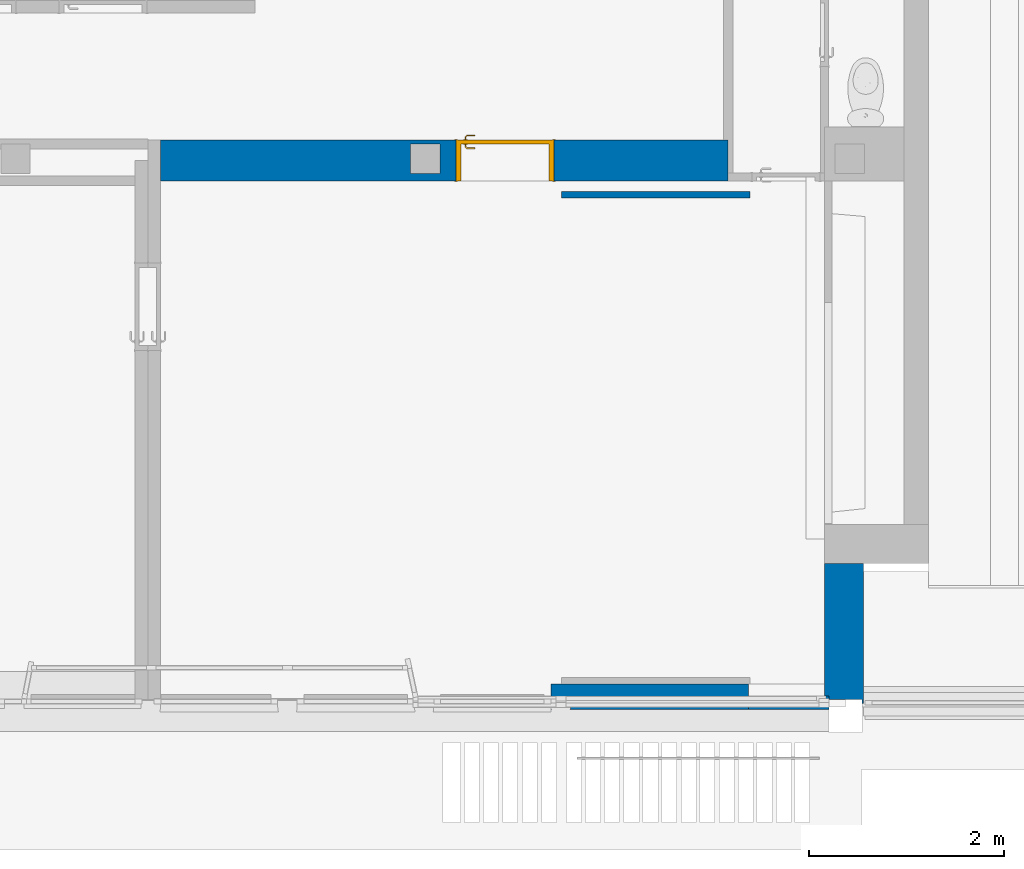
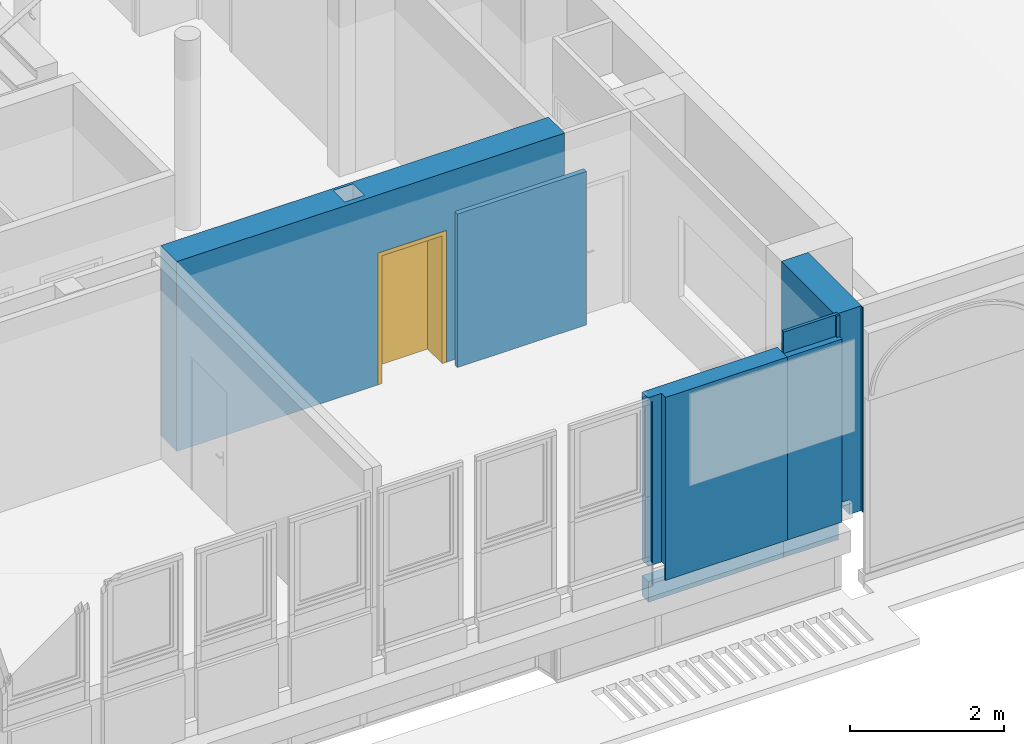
# One storey, part 77 of 97: 5 walls, 1 door, 1 opening.
"""IFC4 building model written with IfcOpenShell, lengths in metres."""

import ifcopenshell
import ifcopenshell.guid

model = None  # the IFC model being written
_history = None  # IfcOwnerHistory: only IFC2X3 demands one
_inside = {}  # id of a spatial element -> (the spatial element, [elements in it])
_under = {}  # id of a project, library or spatial element -> (it, [spatial elements below it])
_declared = {}  # id of a project -> (the project, [libraries it declares])
_typed = {}  # id of a type object -> (the type object, [elements of that type])
_made_of = {}  # id of a material, layer set ... -> (it, [elements and type objects made of it])


def new_model(schema):
    """Start an empty IFC model of exactly this schema.

    Asked for "IFC4X3", IfcOpenShell would pick the latest addendum, in which some entities
    have other attributes; the version numbers below select the first issue.
    IFC2X3 requires an IfcOwnerHistory on every rooted entity: one is made here for all.
    """
    global model, _history
    if schema == "IFC4X3":
        model = ifcopenshell.file(schema_version=(4, 3, 0, 0))
    else:
        model = ifcopenshell.file(schema=schema)
    _inside.clear()
    _under.clear()
    _declared.clear()
    _typed.clear()
    _made_of.clear()
    _history = None
    if model.schema == "IFC2X3":
        org = make("IfcOrganization", Name="unknown")
        user = make(
            "IfcPersonAndOrganization",
            ThePerson=make("IfcPerson", FamilyName="unknown"),
            TheOrganization=org,
        )
        app = make(
            "IfcApplication",
            ApplicationDeveloper=org,
            Version="unknown",
            ApplicationFullName="unknown",
            ApplicationIdentifier="unknown",
        )
        _history = make(
            "IfcOwnerHistory",
            OwningUser=user,
            OwningApplication=app,
            ChangeAction="ADDED",
            CreationDate=0,
        )
    return model


def make(cls, **values):
    """One entity of the class cls with the attributes given. An attribute that is None is left unset."""
    return model.create_entity(
        cls, **{name: value for name, value in values.items() if value is not None}
    )


def entity(cls, *values):
    """Any entity or typed value of the class cls, its attributes in the order of the schema. None: left unset."""
    e = model.create_entity(cls)
    for i, value in enumerate(values):
        if value is not None:
            e[i] = value
    return e


def rooted(cls, **values):
    """An entity with a GlobalId (a new one), such as an element, a storey or a relation."""
    return make(cls, GlobalId=ifcopenshell.guid.new(), OwnerHistory=_history, **values)


def si_unit(unit_type, name, prefix=None):
    """IfcSIUnit, for example si_unit("LENGTHUNIT", "METRE", prefix="MILLI")."""
    return make("IfcSIUnit", UnitType=unit_type, Prefix=prefix, Name=name)


def converted_unit(unit_type, name, factor, base, dimensions=None, offset=None):
    """IfcConversionBasedUnit, such as the inch: factor (a typed value) times the base unit."""
    return make(
        "IfcConversionBasedUnit"
        if offset is None
        else "IfcConversionBasedUnitWithOffset",
        ConversionOffset=offset,
        Dimensions=None
        if dimensions is None
        else entity("IfcDimensionalExponents", *dimensions),
        UnitType=unit_type,
        Name=name,
        ConversionFactor=make(
            "IfcMeasureWithUnit", ValueComponent=factor, UnitComponent=base
        ),
    )


def derived_unit(unit_type, elements):
    """IfcDerivedUnit: a product of units, each with its exponent."""
    return make(
        "IfcDerivedUnit",
        Elements=[
            make("IfcDerivedUnitElement", Unit=unit, Exponent=power)
            for unit, power in elements
        ],
        UnitType=unit_type,
    )


def assignment(units):
    """IfcUnitAssignment: the units of a project."""
    return None if units is None else make("IfcUnitAssignment", Units=units)


def point(xyz):
    """IfcCartesianPoint."""
    return None if xyz is None else make("IfcCartesianPoint", Coordinates=xyz)


def direction(xyz):
    """IfcDirection."""
    return None if xyz is None else make("IfcDirection", DirectionRatios=xyz)


def frame(location, z_axis=None, x_axis=None):
    """IfcAxis2Placement3D, a coordinate frame: its origin and axes. An axis left out is left unset."""
    return make(
        "IfcAxis2Placement3D",
        Location=point(location),
        Axis=direction(z_axis),
        RefDirection=direction(x_axis),
    )


def origin():
    """The frame at (0, 0, 0) with its axes left unset."""
    return frame((0.0, 0.0, 0.0))


def place(relative_to, where):
    """IfcLocalPlacement: puts the frame where relative to a parent placement (None: the world)."""
    return make(
        "IfcLocalPlacement", PlacementRelTo=relative_to, RelativePlacement=where
    )


def context(
    kind, dimensions, precision=None, world=None, true_north=None, identifier=None
):
    """IfcGeometricRepresentationContext, for example the 3D "Model" context."""
    return make(
        "IfcGeometricRepresentationContext",
        ContextIdentifier=identifier,
        ContextType=kind,
        CoordinateSpaceDimension=dimensions,
        Precision=precision,
        WorldCoordinateSystem=world,
        TrueNorth=true_north,
    )


def subcontext(parent, identifier, kind, view, scale=None):
    """IfcGeometricRepresentationSubContext, for example "Body" below "Model"."""
    return make(
        "IfcGeometricRepresentationSubContext",
        ContextIdentifier=identifier,
        ContextType=kind,
        ParentContext=parent,
        TargetScale=scale,
        TargetView=view,
    )


def project(units=None, contexts=None):
    """IfcProject with its units and contexts."""
    return rooted(
        "IfcProject",
        Name="project",
        RepresentationContexts=contexts,
        UnitsInContext=assignment(units),
    )


def spatial(cls, under=None, at=None, **own):
    """A site, building, storey or space (cls), placed at a placement, below another one or the project."""
    s = rooted(cls, ObjectPlacement=at, **own)
    if under is not None:
        _under.setdefault(under.id(), (under, []))[1].append(s)
    return s


def point_list(points):
    """IfcCartesianPointList2D or 3D."""
    cls = (
        "IfcCartesianPointList2D" if len(points[0]) == 2 else "IfcCartesianPointList3D"
    )
    return make(cls, CoordList=points)


def indexed_curve(points, segments=None, self_intersect=None):
    """IfcIndexedPolyCurve: lines and arcs through numbered points (the first is 1)."""
    return make(
        "IfcIndexedPolyCurve",
        Points=point_list(points),
        Segments=segments,
        SelfIntersect=self_intersect,
    )


def outline(outer, holes=None, kind="AREA"):
    """IfcArbitraryClosedProfileDef: a profile drawn as a closed curve; with holes, ...WithVoids."""
    if holes is None:
        return make("IfcArbitraryClosedProfileDef", ProfileType=kind, OuterCurve=outer)
    return make(
        "IfcArbitraryProfileDefWithVoids",
        ProfileType=kind,
        OuterCurve=outer,
        InnerCurves=holes,
    )


def extrude(swept, where, along, depth):
    """IfcExtrudedAreaSolid: the profile swept, set in the frame where, extruded along a direction by depth."""
    return make(
        "IfcExtrudedAreaSolid",
        SweptArea=swept,
        Position=where,
        ExtrudedDirection=direction(along),
        Depth=depth,
    )


def polygons(points, faces, closed=None, point_numbers=None):
    """IfcPolygonalFaceSet: a face is its outer loop, then its inner loops; points numbered from 1."""
    made = []
    for loops in faces:
        if len(loops) == 1:
            made.append(make("IfcIndexedPolygonalFace", CoordIndex=loops[0]))
        else:
            made.append(
                make(
                    "IfcIndexedPolygonalFaceWithVoids",
                    CoordIndex=loops[0],
                    InnerCoordIndices=loops[1:],
                )
            )
    return make(
        "IfcPolygonalFaceSet",
        Coordinates=point_list(points),
        Closed=closed,
        Faces=made,
        PnIndex=point_numbers,
    )


def shape(context_of_items, identifier, shape_type, items):
    """IfcShapeRepresentation: the items that make up one representation, for example the "Body"."""
    return make(
        "IfcShapeRepresentation",
        ContextOfItems=context_of_items,
        RepresentationIdentifier=identifier,
        RepresentationType=shape_type,
        Items=items,
    )


def source(mapping_origin, context_of_items, identifier, shape_type, items):
    """IfcRepresentationMap: a shape defined once, which mapped items show again and again."""
    return make(
        "IfcRepresentationMap",
        MappingOrigin=mapping_origin,
        MappedRepresentation=shape(context_of_items, identifier, shape_type, items),
    )


def transform(
    local_origin,
    x_axis=None,
    y_axis=None,
    z_axis=None,
    scale=None,
    scale2=None,
    scale3=None,
    uniform=True,
):
    """IfcCartesianTransformationOperator3D, or its non-uniform kind. x_axis, y_axis, z_axis: its Axis1, 2, 3."""
    if uniform:
        return make(
            "IfcCartesianTransformationOperator3D",
            Axis1=direction(x_axis),
            Axis2=direction(y_axis),
            LocalOrigin=point(local_origin),
            Scale=scale,
            Axis3=direction(z_axis),
        )
    return make(
        "IfcCartesianTransformationOperator3DnonUniform",
        Axis1=direction(x_axis),
        Axis2=direction(y_axis),
        LocalOrigin=point(local_origin),
        Scale=scale,
        Axis3=direction(z_axis),
        Scale2=scale2,
        Scale3=scale3,
    )


def mapped(mapping_source, mapping_target):
    """IfcMappedItem: shows the shape of a source again, moved by a transform."""
    return make(
        "IfcMappedItem", MappingSource=mapping_source, MappingTarget=mapping_target
    )


def material(Name=None, Category=None):
    """IfcMaterial."""
    return make("IfcMaterial", Name=Name, Category=Category)


def material_list(materials):
    """IfcMaterialList."""
    return make("IfcMaterialList", Materials=materials)


def layer(
    of_material, thickness, ventilated=None, Name=None, Category=None, Priority=None
):
    """IfcMaterialLayer: one layer of a wall or slab, of a material (None: an air gap)."""
    return make(
        "IfcMaterialLayer",
        Material=of_material,
        LayerThickness=thickness,
        IsVentilated=ventilated,
        Name=Name,
        Category=Category,
        Priority=Priority,
    )


def layer_set(layers, Name=None):
    """IfcMaterialLayerSet."""
    return make("IfcMaterialLayerSet", MaterialLayers=layers, LayerSetName=Name)


def constituent(of_material, Name=None, Category=None, fraction=None):
    """IfcMaterialConstituent: one of the materials an element consists of."""
    return make(
        "IfcMaterialConstituent",
        Name=Name,
        Material=of_material,
        Fraction=fraction,
        Category=Category,
    )


def constituent_set(constituents=None, Name=None):
    """IfcMaterialConstituentSet."""
    return make(
        "IfcMaterialConstituentSet", Name=Name, MaterialConstituents=constituents
    )


def made_of(thing, what):
    """Note that an element or type object is made of a material, layer set ...; save() writes the relation."""
    if what is not None:
        _made_of.setdefault(what.id(), (what, []))[1].append(thing)
    return thing


def type_object(cls, material=None, **own):
    """A type object (cls), such as IfcWallType, which elements share."""
    return made_of(rooted(cls, **own), material)


def type_shapes(of_type, sources):
    """Give a type object the sources (RepresentationMaps) that its elements show as mapped items."""
    of_type.RepresentationMaps = sources


def element(
    cls,
    number,
    at=None,
    inside=None,
    cuts=None,
    type_object=None,
    material=None,
    context=None,
    identifier="Body",
    shape_type=None,
    held_by="IfcProductDefinitionShape",
    body=None,
    shapes=None,
    **own,
):
    """One element of the class cls, such as IfcWall. Its Tag is "e" and its number.

    at: its placement. inside: the storey or other place that contains it. cuts: it is an
    opening in that element (IfcRelVoidsElement). A single representation is given by context,
    identifier, shape_type and body (its items); several are given by shapes. held_by: the class
    of the entity that holds the representations. save() writes the other relations.
    """
    e = rooted(cls, Tag="e%d" % number, ObjectPlacement=at, **own)
    if body is not None:
        shapes = [shape(context, identifier, shape_type, body)]
    if shapes is not None:
        e.Representation = make(held_by, Representations=shapes)
    if inside is not None:
        _inside.setdefault(inside.id(), (inside, []))[1].append(e)
    if cuts is not None:
        rooted(
            "IfcRelVoidsElement", RelatingBuildingElement=cuts, RelatedOpeningElement=e
        )
    if type_object is not None:
        _typed.setdefault(type_object.id(), (type_object, []))[1].append(e)
    return made_of(e, material)


def fill(opening, filler):
    """IfcRelFillsElement: the door or window that sits in an opening."""
    return rooted(
        "IfcRelFillsElement",
        RelatingOpeningElement=opening,
        RelatedBuildingElement=filler,
    )


def aggregate(whole, parts):
    """IfcRelAggregates: a whole, such as a stair, and the parts it consists of."""
    return rooted("IfcRelAggregates", RelatingObject=whole, RelatedObjects=parts)


def save(model, path):
    """Write the relations noted so far, then the file.

    IfcRelAggregates (storeys below a building ...), IfcRelContainedInSpatialStructure (elements
    in a storey), IfcRelDefinesByType, IfcRelAssociatesMaterial and IfcRelDeclares: one each for
    every whole, place, type object, material and project.
    """
    for whole, parts in _under.values():
        aggregate(whole, parts)
    for where, things in _inside.values():
        rooted(
            "IfcRelContainedInSpatialStructure",
            RelatedElements=things,
            RelatingStructure=where,
        )
    for kind, things in _typed.values():
        rooted("IfcRelDefinesByType", RelatedObjects=things, RelatingType=kind)
    for what, things in _made_of.values():
        rooted("IfcRelAssociatesMaterial", RelatedObjects=things, RelatingMaterial=what)
    for by, libraries in _declared.values():
        rooted("IfcRelDeclares", RelatingContext=by, RelatedDefinitions=libraries)
    model.write(path)


model = new_model("IFC4")

# Units and contexts
model_context = context("Model", 3, precision=1e-05, world=origin(), true_north=direction((6.12303176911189e-17, 1.0)))
body_context = subcontext(model_context, "Body", "Model", "MODEL_VIEW")
ifc_project = project(units=[si_unit("LENGTHUNIT", "METRE"), si_unit("AREAUNIT", "SQUARE_METRE"), si_unit("VOLUMEUNIT", "CUBIC_METRE"), converted_unit("PLANEANGLEUNIT", "DEGREE", entity("IfcRatioMeasure", 0.0174532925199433), si_unit("PLANEANGLEUNIT", "RADIAN"), dimensions=[0, 0, 0, 0, 0, 0, 0]), si_unit("MASSUNIT", "GRAM", prefix="KILO"), derived_unit("MASSDENSITYUNIT", [(si_unit("MASSUNIT", "GRAM", prefix="KILO"), 1), (si_unit("LENGTHUNIT", "METRE"), -3)]), derived_unit("MOMENTOFINERTIAUNIT", [(si_unit("LENGTHUNIT", "METRE"), 4)]), si_unit("TIMEUNIT", "SECOND"), si_unit("FREQUENCYUNIT", "HERTZ"), si_unit("THERMODYNAMICTEMPERATUREUNIT", "DEGREE_CELSIUS"), derived_unit("THERMALTRANSMITTANCEUNIT", [(si_unit("MASSUNIT", "GRAM", prefix="KILO"), 1), (si_unit("THERMODYNAMICTEMPERATUREUNIT", "KELVIN"), -1), (si_unit("TIMEUNIT", "SECOND"), -3)]), derived_unit("VOLUMETRICFLOWRATEUNIT", [(si_unit("LENGTHUNIT", "METRE"), 3), (si_unit("TIMEUNIT", "SECOND"), -1)]), si_unit("ELECTRICCURRENTUNIT", "AMPERE"), si_unit("ELECTRICVOLTAGEUNIT", "VOLT"), si_unit("POWERUNIT", "WATT"), si_unit("FORCEUNIT", "NEWTON", prefix="KILO"), si_unit("ILLUMINANCEUNIT", "LUX"), si_unit("LUMINOUSFLUXUNIT", "LUMEN"), si_unit("LUMINOUSINTENSITYUNIT", "CANDELA"), derived_unit("USERDEFINED", [(si_unit("MASSUNIT", "GRAM", prefix="KILO"), -1), (si_unit("LENGTHUNIT", "METRE"), -2), (si_unit("TIMEUNIT", "SECOND"), 3), (si_unit("LUMINOUSFLUXUNIT", "LUMEN"), 1)]), derived_unit("LINEARVELOCITYUNIT", [(si_unit("LENGTHUNIT", "METRE"), 1), (si_unit("TIMEUNIT", "SECOND"), -1)]), si_unit("PRESSUREUNIT", "PASCAL"), derived_unit("USERDEFINED", [(si_unit("LENGTHUNIT", "METRE"), -2), (si_unit("MASSUNIT", "GRAM", prefix="KILO"), 1), (si_unit("TIMEUNIT", "SECOND"), -2)]), derived_unit("LINEARFORCEUNIT", [(si_unit("MASSUNIT", "GRAM", prefix="KILO"), 1), (si_unit("LENGTHUNIT", "METRE"), 1), (si_unit("TIMEUNIT", "SECOND"), -2), (si_unit("LENGTHUNIT", "METRE"), -1)]), derived_unit("PLANARFORCEUNIT", [(si_unit("MASSUNIT", "GRAM", prefix="KILO"), 1), (si_unit("LENGTHUNIT", "METRE"), 1), (si_unit("TIMEUNIT", "SECOND"), -2), (si_unit("LENGTHUNIT", "METRE"), -2)])], contexts=[model_context])

# Site, building, storey
site_placement = place(None, origin())
site = spatial("IfcSite", under=ifc_project, at=site_placement, Name="Default", CompositionType="ELEMENT")
building_placement = place(site_placement, origin())
building = spatial("IfcBuilding", under=site, at=building_placement, Name="HOTEL CONSULAIRE BOULOGNE SUR MER", CompositionType="ELEMENT")
storey_placement = place(building_placement, frame((0.0, 0.0, 3.62152697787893)))
storey = spatial("IfcBuildingStorey", under=building, at=storey_placement, Name="Niveau 1", CompositionType="ELEMENT", Elevation=3.62152697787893)

# Walls
ifc_material_1 = material(Name="Mur par défaut", Category="Divers")
ifc_layer_1 = layer(ifc_material_1, 0.26, Name="Mur par défaut", Category="Divers")
ifc_layer_set_1 = layer_set([ifc_layer_1], Name="Mur de base:Générique - Ext.260")
wall_type_1 = type_object("IfcWallType", Name="Mur de base:Générique - Ext.260", PredefinedType="NOTDEFINED", material=ifc_layer_set_1)
wall_1_placement = place(storey_placement, frame((8.45858002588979, -29.5283514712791, -0.56300000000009)))
element("IfcWall", 1, at=wall_1_placement, inside=storey, type_object=wall_type_1, material=ifc_layer_set_1, Name="Mur de base:Générique - Ext.260", ObjectType="Mur de base:Générique - Ext.260", PredefinedType="NOTDEFINED", context=body_context, shape_type="Tessellation", body=[
    polygons([(0.00349265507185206, -0.130000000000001, 0.332600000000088), (9.27208915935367e-17, -0.130000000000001, 0.332600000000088), (2.20227283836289e-15, -0.106715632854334, 0.332600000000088), (9.27208915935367e-17, -0.130000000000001, 3.23347302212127), (0.00349265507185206, -0.130000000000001, 3.23347302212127), (3.65385797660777e-17, -0.106715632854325, 3.23347302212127), (3.65385797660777e-17, -0.106715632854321, 0.56300000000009)], [[[3, 1, 2]], [[4, 2, 1, 5]], [[5, 6, 4]], [[2, 4, 6, 7, 3]], [[7, 6, 5, 1, 3]]], closed=True),
    polygons([(5.48240024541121e-16, 0.130000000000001, 0.0), (-1.82942455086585e-16, -0.0157532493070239, 0.0), (-1.34775680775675e-16, -0.0357156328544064, 0.0), (-1.34775680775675e-16, -0.0357156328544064, 0.32800000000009), (-1.82942455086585e-16, -0.0157532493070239, 0.32800000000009), (5.48240024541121e-16, 0.130000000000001, 0.32800000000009), (2.02605827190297, 0.130000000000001, 0.0), (2.02605827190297, 0.130000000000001, 0.32800000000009), (2.02605827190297, -0.0357156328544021, 0.0), (2.02605827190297, 0.0100000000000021, 0.0), (2.02605827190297, 0.0100000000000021, 0.32800000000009), (2.02605827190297, -0.0357156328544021, 0.32800000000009)], [[[2, 3, 4, 5, 6, 1]], [[8, 7, 1, 6]], [[11, 12, 9, 10, 7, 8]], [[10, 9, 3, 2, 1, 7]], [[3, 9, 12, 4]], [[11, 8, 6, 5, 4, 12]]], closed=True),
    polygons([(2.02605827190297, -0.130000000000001, 0.332600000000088), (2.02605827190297, -0.130000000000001, 3.23347302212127), (0.19650734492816, -0.130000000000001, 3.23347302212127), (0.196507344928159, -0.130000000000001, 0.332600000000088), (5.48240024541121e-16, 0.130000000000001, 3.23347302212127), (2.02605827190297, 0.130000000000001, 3.23347302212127), (2.02605827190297, 0.130000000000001, 0.56300000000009), (5.48240024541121e-16, 0.130000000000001, 0.56300000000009), (2.02605827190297, -0.106753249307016, 0.332600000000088), (2.02605827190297, -0.106753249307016, 0.56300000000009), (2.02605827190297, 0.0100000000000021, 0.56300000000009), (-1.58904449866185e-16, -0.0257156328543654, 3.23347302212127), (0.200000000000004, -0.0257156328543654, 3.23347302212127), (0.200000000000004, -0.106715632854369, 3.23347302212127), (-1.82942455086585e-16, -0.0157532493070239, 0.56300000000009), (-1.58904449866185e-16, -0.0257156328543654, 0.56300000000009), (0.199994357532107, -0.106753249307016, 0.332600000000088), (0.199994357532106, -0.106753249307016, 0.56300000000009), (0.200000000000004, -0.0257156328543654, 0.56300000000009)], [[[3, 4, 1, 2]], [[19, 13, 12, 16]], [[6, 7, 8, 5]], [[18, 10, 9, 17]], [[10, 11, 7, 6, 2, 1, 9]], [[2, 6, 5, 12, 13, 14, 3]], [[16, 12, 5, 8, 15]], [[19, 14, 13]], [[17, 9, 1, 4]], [[18, 19, 16, 15, 8, 7, 11, 10]], [[18, 17, 4, 3, 14]], [[14, 19, 18]]], closed=True),
])
ifc_layer_2 = layer(ifc_material_1, 0.14, Name="Mur par défaut", Category="Divers")
ifc_layer_set_2 = layer_set([ifc_layer_2], Name="Mur de base:Générique - Ext.140")
wall_type_2 = type_object("IfcWallType", Name="Mur de base:Générique - Ext.140", PredefinedType="NOTDEFINED", material=ifc_layer_set_2)
wall_2_placement = place(storey_placement, frame((10.4846382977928, -29.5883514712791, -0.570400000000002)))
element("IfcWall", 2, at=wall_2_placement, inside=storey, type_object=wall_type_2, material=ifc_layer_set_2, Name="Mur de base:Générique - Ext.140", ObjectType="Mur de base:Générique - Ext.140", PredefinedType="NOTDEFINED", context=body_context, shape_type="Tessellation", body=[
    polygons([(-2.45081875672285e-16, 0.0700000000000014, 3.5806145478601), (0.821999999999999, 0.0699999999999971, 3.5806145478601), (0.821999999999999, 0.0699999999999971, 0.570400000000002), (-2.45081875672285e-16, 0.0700000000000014, 0.570400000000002), (0.821999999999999, 0.0242843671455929, 3.5806145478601), (0.821999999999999, 0.0242843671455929, 3.2406145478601), (0.822, -0.0700000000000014, 3.2406145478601), (0.822, -0.0700000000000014, 0.34), (0.821999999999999, -0.0467532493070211, 0.34), (0.821999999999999, -0.0467532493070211, 0.570400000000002), (9.27208915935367e-17, -0.0699999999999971, 0.34), (9.27208915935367e-17, -0.0699999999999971, 3.2406145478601), (-1.3477568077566e-16, 0.0242843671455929, 3.5806145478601), (3.66293436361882e-17, -0.0467532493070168, 0.570400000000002), (3.66293436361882e-17, -0.0467532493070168, 0.34), (-1.3477568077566e-16, 0.0242843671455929, 3.24061454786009)], [[[2, 3, 4, 1]], [[10, 9, 15, 14]], [[8, 9, 10, 3, 2, 5, 6, 7]], [[12, 11, 8, 7]], [[16, 6, 5, 13]], [[13, 5, 2, 1]], [[12, 7, 6, 16]], [[12, 16, 13, 1, 4, 14, 15, 11]], [[15, 9, 8, 11]], [[3, 10, 14, 4]]], closed=True),
    polygons([(-2.45081875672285e-16, 0.0700000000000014, 0.00739999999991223), (-1.34775680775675e-16, 0.0242843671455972, 0.00739999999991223), (-1.34775680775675e-16, 0.0242843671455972, 0.335400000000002), (-2.45081875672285e-16, 0.0700000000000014, 0.335400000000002), (0.821999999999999, 0.0699999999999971, 0.0), (0.792362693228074, 0.0699999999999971, 0.0), (0.792362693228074, 0.0699999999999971, 0.00739999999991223), (0.821999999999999, 0.0699999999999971, 0.335400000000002), (0.821999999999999, 0.0242843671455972, 0.0), (0.792362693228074, 0.0242843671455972, 0.0), (0.821999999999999, 0.0242843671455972, 0.335400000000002), (0.792362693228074, 0.0242843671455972, 0.00739999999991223)], [[[2, 3, 4, 1]], [[12, 7, 6, 10]], [[7, 1, 4, 8, 5, 6]], [[9, 10, 6, 5]], [[2, 1, 7, 12]], [[11, 9, 5, 8]], [[12, 10, 9, 11, 3, 2]], [[11, 8, 4, 3]]], closed=True),
])

# Wall, opening, door
ifc_layer_3 = layer(ifc_material_1, 0.42, Name="Mur par défaut", Category="Divers")
ifc_layer_set_3 = layer_set([ifc_layer_3], Name="Mur de base:Générique - Int.420")
wall_type_3 = type_object("IfcWallType", Name="Mur de base:Générique - Int.420", PredefinedType="NOTDEFINED", material=ifc_layer_set_3)
wall_3_placement = place(storey_placement, frame((4.4585800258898, -24.0327611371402, 0.0)))
wall_3 = element("IfcWall", 3, at=wall_3_placement, inside=storey, type_object=wall_type_3, material=ifc_layer_set_3, Name="Mur de base:Générique - Int.420", ObjectType="Mur de base:Générique - Int.420", PredefinedType="NOTDEFINED", context=body_context, shape_type="Tessellation", body=[
    polygons([(3.02889785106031, -0.21, 0.0), (0.0, -0.21, 0.0), (1.08286712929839e-15, 0.21, 0.0), (3.02889785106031, 0.21, 0.0), (2.86259674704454, -0.133148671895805, 0.0), (2.86259674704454, 0.166851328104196, 0.0), (2.56259674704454, 0.166851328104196, 0.0), (2.56259674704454, -0.133148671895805, 0.0), (5.8148978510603, -0.21, 3.01021454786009), (0.0, -0.21, 3.01021454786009), (3.02889785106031, -0.21, 2.075), (4.02889785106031, -0.21, 2.075), (4.02889785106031, -0.21, 0.0), (5.8148978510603, -0.21, 0.0), (5.41433564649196e-16, 0.21, 3.01021454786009), (5.7648978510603, 0.21, 3.01021454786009), (5.8148978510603, 0.21, 3.01021454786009), (5.8148978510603, 0.21, 0.0), (5.7648978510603, 0.21, 0.0), (4.02889785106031, 0.21, 0.0), (4.02889785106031, 0.21, 2.075), (3.02889785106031, 0.21, 2.075), (5.8148978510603, -0.130000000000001, 3.01021454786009), (5.8148978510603, -0.130000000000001, 0.0), (2.86259674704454, 0.166851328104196, 3.01021454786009), (2.86259674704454, -0.133148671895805, 3.01021454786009), (2.56259674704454, -0.133148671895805, 3.01021454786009), (2.56259674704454, 0.166851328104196, 3.01021454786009)], [[[1, 2, 3, 4], [8, 5, 6, 7]], [[22, 21, 12, 11]], [[24, 14, 13, 20, 19, 18]], [[2, 1, 11, 12, 13, 14, 9, 10]], [[6, 25, 28, 7]], [[18, 19, 20, 21, 22, 4, 3, 15, 16, 17]], [[8, 27, 26, 5]], [[23, 9, 14, 24, 18, 17]], [[4, 22, 11, 1]], [[7, 28, 27, 8]], [[16, 15, 10, 9, 23, 17], [26, 27, 28, 25]], [[3, 2, 10, 15]], [[21, 20, 13, 12]], [[5, 26, 25, 6]]], closed=True),
])
opening_placement = place(wall_3_placement, frame((3.02889785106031, -0.21, 0.0)))
opening = element("IfcOpeningElement", 4, at=opening_placement, cuts=wall_3, Name="Int. Simple:PP0.93x2.04:1", ObjectType="Opening", PredefinedType="OPENING", context=body_context, shape_type="SweptSolid", body=[
    extrude(outline(indexed_curve([(0.0, 1.0), (0.0, 0.0), (2.075, 0.0), (2.075, 1.0), (0.0, 1.0)], self_intersect=False)), frame((0.0, 0.0, 0.0), z_axis=(0.0, 1.0, 0.0), x_axis=(0.0, 0.0, 1.0)), (0.0, 0.0, 1.0), 0.42),
])
ifc_material_2 = material(Name="Finition Peinture - Blanc satiné", Category="Peinture")
ifc_constituent_1 = constituent(ifc_material_2, Name="Finition Peinture - Blanc satiné", Category="Matériaux")
ifc_material_3 = material(Name="Bois - Panneau de porte", Category="Bois")
ifc_constituent_2 = constituent(ifc_material_3, Name="Bois - Panneau de porte", Category="Matériaux")
ifc_material_4 = material(Name="Bois - Cadre de porte", Category="Bois")
ifc_constituent_3 = constituent(ifc_material_4, Name="Bois - Cadre de porte", Category="Matériaux")
ifc_constituent_set = constituent_set(constituents=[ifc_constituent_1, ifc_constituent_2, ifc_constituent_3], Name="MaterialConstituentSet")
ifc_material_list = material_list([ifc_material_3, ifc_material_4, ifc_material_2, ifc_material_4])
door_type = type_object("IfcDoorType", Name="Int. Simple:PP0.93x2.04", OperationType="NOTDEFINED", PredefinedType="DOOR", material=ifc_material_list)
shared_shape = source(origin(), body_context, "Body", "Tessellation", [
    polygons([(0.995000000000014, -0.0050000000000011, 0.870000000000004), (0.995000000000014, -0.0050000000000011, 1.08), (0.985352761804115, -0.0050000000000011, 1.08399601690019), (0.975000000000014, -0.0050000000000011, 1.08535898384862), (0.964647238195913, -0.00500000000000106, 1.08399601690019), (0.955000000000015, -0.00500000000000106, 1.08), (0.955000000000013, -0.00500000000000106, 0.870000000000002), (0.964647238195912, -0.00500000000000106, 0.866003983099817), (0.975000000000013, -0.0050000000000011, 0.86464101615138), (0.985352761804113, -0.0050000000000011, 0.866003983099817), (0.995000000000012, -1.11670672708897e-15, 0.870000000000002), (0.985352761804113, -1.11670672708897e-15, 0.866003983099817), (0.975000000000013, -1.11670672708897e-15, 0.86464101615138), (0.964647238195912, -1.08286712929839e-15, 0.866003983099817), (0.955000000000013, -1.08286712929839e-15, 0.870000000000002), (0.955000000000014, -1.08286712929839e-15, 1.08), (0.964647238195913, -1.08286712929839e-15, 1.08399601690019), (0.975000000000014, -1.11670672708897e-15, 1.08535898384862), (0.985352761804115, -1.11670672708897e-15, 1.08399601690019), (0.995000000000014, -1.11670672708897e-15, 1.08)], [[[1, 2, 3, 4, 5, 6, 7, 8, 9, 10]], [[20, 11, 12, 13, 14, 15, 16, 17, 18, 19]], [[10, 12, 11, 1]], [[9, 13, 12, 10]], [[8, 14, 13, 9]], [[8, 7, 15, 14]], [[15, 7, 6, 16]], [[5, 17, 16, 6]], [[4, 18, 17, 5]], [[3, 19, 18, 4]], [[3, 2, 20, 19]], [[11, 20, 2, 1]]], closed=True),
    polygons([(0.955000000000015, 0.0399999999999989, 1.08), (0.955000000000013, 0.0399999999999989, 0.870000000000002), (0.964647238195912, 0.0399999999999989, 0.866003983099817), (0.975000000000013, 0.0399999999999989, 0.86464101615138), (0.985352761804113, 0.0399999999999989, 0.866003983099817), (0.995000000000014, 0.0399999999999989, 0.870000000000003), (0.995000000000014, 0.0399999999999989, 1.08), (0.985352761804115, 0.0399999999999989, 1.08399601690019), (0.975000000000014, 0.0399999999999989, 1.08535898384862), (0.964647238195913, 0.0399999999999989, 1.08399601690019), (0.955000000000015, 0.0449999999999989, 1.08), (0.964647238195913, 0.0449999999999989, 1.08399601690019), (0.975000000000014, 0.0449999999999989, 1.08535898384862), (0.985352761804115, 0.0449999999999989, 1.08399601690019), (0.995000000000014, 0.0449999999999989, 1.08), (0.995000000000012, 0.0449999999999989, 0.870000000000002), (0.985352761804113, 0.0449999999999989, 0.866003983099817), (0.975000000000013, 0.0449999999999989, 0.86464101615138), (0.964647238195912, 0.0449999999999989, 0.866003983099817), (0.955000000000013, 0.0449999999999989, 0.870000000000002)], [[[6, 7, 8, 9, 10, 1, 2, 3, 4, 5]], [[13, 14, 15, 16, 17, 18, 19, 20, 11, 12]], [[10, 12, 11, 1]], [[9, 13, 12, 10]], [[8, 14, 13, 9]], [[8, 7, 15, 14]], [[16, 15, 7, 6]], [[5, 17, 16, 6]], [[4, 18, 17, 5]], [[3, 19, 18, 4]], [[3, 2, 20, 19]], [[20, 2, 1, 11]]], closed=True),
    polygons([(0.981000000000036, -0.00500000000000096, 1.00699999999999), (0.981000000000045, -0.00500000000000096, 0.992999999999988), (0.977025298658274, -0.00500000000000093, 0.99221955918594), (0.972974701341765, -0.00500000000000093, 0.992219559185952), (0.968999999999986, -0.00500000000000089, 0.993000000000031), (0.968999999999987, -0.00500000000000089, 1.007), (0.972974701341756, -0.00500000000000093, 1.00778044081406), (0.977025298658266, -0.00500000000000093, 1.00778044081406), (0.968999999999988, -0.0276803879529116, 1.007), (0.972974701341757, -0.029326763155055, 1.00778044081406), (0.977025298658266, -0.0310045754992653, 1.00778044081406), (0.981000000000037, -0.0326509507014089, 1.007), (0.968999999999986, -0.0276803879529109, 0.993000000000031), (0.981000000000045, -0.0326509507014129, 0.992999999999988), (0.977025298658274, -0.0310045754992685, 0.99221955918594), (0.972974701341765, -0.0293267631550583, 0.992219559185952), (0.957652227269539, -0.0390281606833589, 1.007), (0.959298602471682, -0.0430028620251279, 1.00778044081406), (0.960976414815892, -0.0470534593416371, 1.00778044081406), (0.962622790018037, -0.0510281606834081, 1.007), (0.957652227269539, -0.0390281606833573, 0.993000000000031), (0.96262279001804, -0.0510281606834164, 0.992999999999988), (0.960976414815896, -0.047053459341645, 0.99221955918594), (0.959298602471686, -0.0430028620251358, 0.992219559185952), (0.874981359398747, -0.0510281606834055, 1.007), (0.874981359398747, -0.0470534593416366, 1.00778044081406), (0.874981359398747, -0.0430028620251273, 1.00778044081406), (0.874981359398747, -0.0390281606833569, 1.00699999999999), (0.874981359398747, -0.0390281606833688, 0.993000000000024), (0.874981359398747, -0.0430028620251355, 0.992219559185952), (0.874981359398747, -0.0470534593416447, 0.99221955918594), (0.874981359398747, -0.0510281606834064, 0.992999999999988), (0.922692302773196, -0.051028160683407, 1.007), (0.917139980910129, -0.045028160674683, 1.0078786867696), (0.916316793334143, -0.039028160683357, 1.007), (0.922692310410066, -0.0510281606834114, 0.992999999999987), (0.917139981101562, -0.0450281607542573, 0.992121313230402), (0.916316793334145, -0.039028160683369, 0.993000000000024)], [[[7, 8, 1, 2, 3, 4, 5, 6]], [[17, 21, 38, 29, 28, 35]], [[1, 8, 11, 12]], [[8, 7, 10, 18, 19, 11]], [[7, 6, 9, 10]], [[13, 9, 6, 5]], [[25, 26, 27, 28, 29, 30, 31, 32]], [[4, 16, 13, 5]], [[4, 3, 15, 23, 24, 16]], [[2, 14, 15, 3]], [[12, 14, 2, 1]], [[12, 11, 19, 20]], [[10, 9, 17, 18]], [[21, 17, 9, 13]], [[13, 16, 24, 21]], [[15, 14, 22, 23]], [[20, 22, 14, 12]], [[34, 26, 33]], [[33, 26, 25]], [[33, 20, 19]], [[18, 35, 34]], [[35, 18, 17]], [[28, 27, 35]], [[34, 27, 26]], [[34, 35, 27]], [[34, 33, 19]], [[18, 34, 19]], [[37, 30, 38]], [[31, 37, 36]], [[24, 38, 21]], [[30, 29, 38]], [[31, 36, 32]], [[36, 23, 22]], [[37, 23, 36]], [[37, 24, 23]], [[37, 38, 24]], [[30, 37, 31]], [[22, 20, 33, 25, 32, 36]]], closed=True),
    polygons([(0.968999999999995, 0.0449999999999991, 0.993000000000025), (0.972974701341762, 0.044999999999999, 0.992219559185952), (0.977025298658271, 0.044999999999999, 0.99221955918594), (0.981000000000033, 0.044999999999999, 0.992999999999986), (0.981000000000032, 0.044999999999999, 1.007), (0.977025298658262, 0.044999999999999, 1.00778044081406), (0.972974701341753, 0.044999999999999, 1.00778044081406), (0.968999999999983, 0.0449999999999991, 1.007), (0.968999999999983, 0.067485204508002, 1.007), (0.968999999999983, 0.067485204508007, 0.993000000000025), (0.981000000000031, 0.0724557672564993, 1.007), (0.977025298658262, 0.0708093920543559, 1.00778044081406), (0.972974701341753, 0.0691315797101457, 1.00778044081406), (0.981000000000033, 0.0724557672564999, 0.992999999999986), (0.972974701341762, 0.0691315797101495, 0.992219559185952), (0.977025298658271, 0.0708093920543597, 0.99221955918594), (0.957514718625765, 0.0789704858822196, 1.007), (0.957514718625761, 0.0789704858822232, 0.993000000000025), (0.962485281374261, 0.0909704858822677, 1.007), (0.960838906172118, 0.0869957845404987, 1.00778044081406), (0.959161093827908, 0.0829451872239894, 1.00778044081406), (0.962485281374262, 0.0909704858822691, 0.992999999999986), (0.959161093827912, 0.0829451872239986, 0.992219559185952), (0.960838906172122, 0.0869957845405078, 0.99221955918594), (0.874954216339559, 0.0789704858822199, 0.993000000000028), (0.874954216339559, 0.078970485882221, 1.007), (0.874954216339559, 0.08294518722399, 1.00778044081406), (0.874954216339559, 0.0869957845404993, 1.00778044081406), (0.874954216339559, 0.0909704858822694, 1.007), (0.874954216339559, 0.0909704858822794, 0.992999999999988), (0.874954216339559, 0.086995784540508, 0.99221955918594), (0.874954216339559, 0.0829451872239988, 0.992219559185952), (0.922554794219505, 0.0909704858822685, 1.007), (0.917057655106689, 0.0849704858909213, 1.0078786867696), (0.916234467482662, 0.0789704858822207, 1.007), (0.922554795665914, 0.0909704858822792, 0.992999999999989), (0.917057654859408, 0.0849704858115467, 0.992121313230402), (0.916234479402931, 0.0789704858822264, 0.993000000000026)], [[[2, 3, 4, 5, 6, 7, 8, 1]], [[18, 17, 35, 26, 25, 38]], [[9, 10, 1, 8]], [[27, 28, 29, 30, 31, 32, 25, 26]], [[7, 13, 9, 8]], [[7, 6, 12, 20, 21, 13]], [[5, 11, 12, 6]], [[11, 5, 4, 14]], [[4, 3, 16, 14]], [[3, 2, 15, 23, 24, 16]], [[2, 1, 10, 15]], [[17, 18, 10, 9]], [[9, 13, 21, 17]], [[11, 19, 20, 12]], [[22, 19, 11, 14]], [[14, 16, 24, 22]], [[15, 10, 18, 23]], [[34, 27, 35]], [[28, 34, 33]], [[21, 35, 17]], [[27, 26, 35]], [[28, 33, 29]], [[33, 20, 19]], [[34, 20, 33]], [[34, 21, 20]], [[34, 35, 21]], [[27, 34, 28]], [[19, 22, 36, 30, 29, 33]], [[37, 31, 36]], [[36, 31, 30]], [[36, 22, 24]], [[23, 38, 37]], [[38, 23, 18]], [[25, 32, 38]], [[37, 32, 31]], [[37, 38, 32]], [[37, 36, 24]], [[23, 37, 24]]], closed=True),
    polygons([(1.03500000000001, 0.04, 2.04), (1.03500000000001, 0.04, 0.0), (0.105000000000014, 0.04, 0.0), (0.105000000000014, 0.04, 2.04), (1.03500000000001, 0.0, 2.04), (0.105000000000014, 0.0, 2.04), (0.105000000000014, 0.0, 0.0), (1.03500000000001, 0.0, 0.0)], [[[3, 4, 1, 2]], [[8, 5, 6, 7]], [[5, 1, 4, 6]], [[6, 4, 3, 7]], [[7, 3, 2, 8]], [[8, 2, 1, 5]]], closed=True),
    polygons([(1.07000000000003, -6.76791955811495e-17, 0.0), (1.03500000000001, -6.76791955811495e-17, 0.0), (1.03500000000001, 0.040000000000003, 0.0), (1.02000000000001, 0.040000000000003, 0.0), (1.02000000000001, 0.420000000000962, 0.0), (1.07000000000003, 0.420000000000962, 0.0), (1.07000000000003, 0.420000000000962, 2.07500000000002), (1.07000000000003, -6.76791955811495e-17, 2.07500000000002), (1.02000000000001, 0.420000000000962, 2.025), (0.120000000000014, 0.420000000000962, 2.025), (0.120000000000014, 0.420000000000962, 3.59657255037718e-24), (0.0699999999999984, 0.420000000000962, 3.88816484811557e-25), (0.0699999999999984, 0.420000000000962, 2.07500000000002), (1.02000000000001, 0.040000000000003, 2.025), (1.03500000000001, 0.040000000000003, 2.04), (0.105000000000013, 0.040000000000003, 2.04), (0.105000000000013, 0.040000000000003, -4.78103047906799e-25), (0.120000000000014, 0.040000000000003, 2.24110802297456e-24), (0.120000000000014, 0.040000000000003, 2.025), (1.03500000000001, -6.76791955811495e-17, 2.04), (0.0699999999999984, -6.76791955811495e-17, 2.07500000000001), (0.0699999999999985, -6.76791955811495e-17, -3.95490158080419e-25), (0.105000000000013, -6.76791955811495e-17, -2.84752548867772e-24), (0.105000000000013, -6.76791955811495e-17, 2.04)], [[[5, 6, 1, 2, 3, 4]], [[17, 23, 22, 12, 11, 18]], [[19, 10, 9, 14]], [[24, 16, 15, 20]], [[7, 8, 1, 6]], [[11, 10, 19, 18]], [[17, 16, 24, 23]], [[9, 10, 11, 12, 13, 7, 6, 5]], [[9, 5, 4, 14]], [[20, 15, 3, 2]], [[12, 22, 21, 13]], [[19, 14, 4, 3, 15, 16, 17, 18]], [[24, 20, 2, 1, 8, 21, 22, 23]], [[21, 8, 7, 13]]], closed=True),
    polygons([(1.05500000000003, 0.420000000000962, 0.0), (1.05500000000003, 0.425000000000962, 0.0), (1.08500000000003, 0.425000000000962, 0.0), (1.08500000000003, 0.420000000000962, 0.0), (1.08500000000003, 0.420000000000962, 2.09000000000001), (0.0550000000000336, 0.420000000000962, 2.09000000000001), (0.0550000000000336, 0.420000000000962, -9.00794238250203e-25), (0.0850000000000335, 0.420000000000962, -1.80158911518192e-24), (0.0850000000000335, 0.420000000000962, 2.06000000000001), (1.05500000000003, 0.420000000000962, 2.06000000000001), (1.08500000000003, 0.425000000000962, 2.09000000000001), (1.05500000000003, 0.425000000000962, 2.06000000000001), (0.0850000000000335, 0.425000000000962, 2.06000000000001), (0.0850000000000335, 0.425000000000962, -4.34281663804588e-24), (0.0550000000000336, 0.425000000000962, -5.48159974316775e-24), (0.0550000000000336, 0.425000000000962, 2.09000000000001)], [[[2, 3, 4, 1]], [[7, 15, 14, 8]], [[13, 12, 10, 9]], [[9, 10, 1, 4, 5, 6, 7, 8]], [[11, 5, 4, 3]], [[8, 14, 13, 9]], [[12, 13, 14, 15, 16, 11, 3, 2]], [[10, 12, 2, 1]], [[15, 7, 6, 16]], [[6, 5, 11, 16]]], closed=True),
    polygons([(1.05500000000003, -0.00500000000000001, 0.0), (1.05500000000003, -6.76791955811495e-17, 0.0), (1.08500000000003, -6.76791955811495e-17, 0.0), (1.08500000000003, -0.00500000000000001, 0.0), (0.0850000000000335, -0.00500000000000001, 5.41433564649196e-16), (0.0550000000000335, -0.00500000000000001, 5.41433564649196e-16), (0.0550000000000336, -6.76791955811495e-17, 5.41433564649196e-16), (0.0850000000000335, -6.76791955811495e-17, 5.41433564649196e-16), (1.08500000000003, -0.00500000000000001, 2.09000000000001), (0.0550000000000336, -0.00500000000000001, 2.09000000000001), (0.0850000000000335, -0.00500000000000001, 2.06000000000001), (1.05500000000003, -0.00500000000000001, 2.06000000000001), (1.08500000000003, -6.76791955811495e-17, 2.09000000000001), (1.05500000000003, -6.76791955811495e-17, 2.06000000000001), (0.0850000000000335, -6.76791955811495e-17, 2.06000000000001), (0.0550000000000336, -6.76791955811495e-17, 2.09000000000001)], [[[2, 3, 4, 1]], [[6, 7, 8, 5]], [[15, 14, 12, 11]], [[11, 12, 1, 4, 9, 10, 6, 5]], [[13, 9, 4, 3]], [[5, 8, 15, 11]], [[14, 15, 8, 7, 16, 13, 3, 2]], [[12, 14, 2, 1]], [[7, 6, 10, 16]], [[10, 9, 13, 16]]], closed=True),
])
type_shapes(door_type, [shared_shape])
door_placement = place(opening_placement, frame((1.07000000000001, 0.420000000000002, 0.0), z_axis=(0.0, 0.0, 1.0), x_axis=(-1.0, 0.0, 0.0)))
door = element("IfcDoor", 5, at=door_placement, inside=storey, type_object=door_type, material=ifc_constituent_set, Name="Int. Simple:PP0.93x2.04", ObjectType="Int. Simple:PP0.93x2.04", OperationType="NOTDEFINED", OverallHeight=2.075, OverallWidth=1.0, PredefinedType="DOOR", context=body_context, shape_type="MappedRepresentation", body=[
    mapped(shared_shape, transform((0.0, 0.0, 0.0), scale=1.0)),
])
fill(opening, door)

# Walls
ifc_layer_4 = layer(ifc_material_1, 0.4, Name="Mur par défaut", Category="Divers")
ifc_layer_set_4 = layer_set([ifc_layer_4], Name="Mur de base:Générique - Int.400")
wall_type_4 = type_object("IfcWallType", Name="Mur de base:Générique - Int.400", PredefinedType="NOTDEFINED", material=ifc_layer_set_4)
wall_4_placement = place(storey_placement, frame((11.4596042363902, -29.5980671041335, -0.235), z_axis=(0.0, 0.0, 1.0), x_axis=(0.0, 1.0, 0.0)))
element("IfcWall", 6, at=wall_4_placement, inside=storey, type_object=wall_type_4, material=ifc_layer_set_4, Name="Mur de base:Générique - Int.400", ObjectType="Mur de base:Générique - Int.400", PredefinedType="NOTDEFINED", context=body_context, shape_type="Tessellation", body=[
    polygons([(0.0, 0.2, 3.24521454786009), (0.0, 0.2, 0.235), (0.0, 0.152965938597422, 0.235), (0.0, 0.152965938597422, 3.24521454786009), (0.0, -0.2, 0.0), (1.43701872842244, -0.200000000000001, 0.0), (1.43701872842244, -0.200000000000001, 3.24521454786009), (0.0, -0.2, 3.24521454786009), (1.43701872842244, 0.199999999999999, 3.24521454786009), (1.43701872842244, 0.199999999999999, 0.235), (0.0, -0.187034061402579, 0.0), (0.0439999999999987, -0.187034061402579, 0.0), (0.0439999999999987, -0.0170340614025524, 0.0), (1.43701872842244, -0.0170340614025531, 0.0), (0.0439999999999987, 0.152965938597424, 3.24521454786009), (0.0439999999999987, -0.187034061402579, 3.24521454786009), (0.0, -0.187034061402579, 3.24521454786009), (1.43701872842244, -0.0170340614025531, 0.235), (0.0439999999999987, -0.0170340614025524, 0.235), (0.0439999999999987, 0.152965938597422, 0.235)], [[[3, 4, 1, 2]], [[5, 8, 17, 11]], [[19, 13, 12, 16, 15, 20]], [[8, 5, 6, 7]], [[20, 15, 4, 3]], [[9, 10, 2, 1]], [[18, 14, 13, 19]], [[11, 17, 16, 12]], [[12, 13, 14, 6, 5, 11]], [[3, 2, 10, 18, 19, 20]], [[7, 9, 1, 4, 15, 16, 17, 8]], [[18, 10, 9, 7, 6, 14]]], closed=True),
])
ifc_material_5 = material(Name="Résineux, bois de construction", Category="Bois")
ifc_layer_5 = layer(ifc_material_5, 0.07, Name="Résineux, bois de construction", Category="Bois")
ifc_layer_set_5 = layer_set([ifc_layer_5], Name="Mur de base:Générique - Int. 70 mm bois")
wall_type_5 = type_object("IfcWallType", Name="Mur de base:Générique - Int. 70 mm bois", PredefinedType="NOTDEFINED", material=ifc_layer_set_5)
wall_5_placement = place(storey_placement, frame((10.4977347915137, -24.3848608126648, 0.0), z_axis=(0.0, 0.0, 1.0), x_axis=(-1.0, 0.0, 0.0)))
element("IfcWall", 7, at=wall_5_placement, inside=storey, type_object=wall_type_5, material=ifc_layer_set_5, Name="Mur de base:Générique - Int. 70 mm bois", ObjectType="Mur de base:Générique - Int. 70 mm bois", PredefinedType="NOTDEFINED", context=body_context, shape_type="Tessellation", body=[
    polygons([(1.932, -0.0350000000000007, 2.43241646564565), (-4.39537836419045e-16, -0.0350000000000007, 2.43241646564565), (-4.39537836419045e-16, -0.0350000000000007, 0.0), (1.932, -0.0350000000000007, 0.0), (-5.96450544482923e-16, 0.0350000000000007, 2.43241646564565), (1.932, 0.0350000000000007, 2.43241646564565), (1.932, 0.0350000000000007, 0.0), (-5.96450544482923e-16, 0.0350000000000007, 0.0)], [[[2, 3, 4, 1]], [[6, 7, 8, 5]], [[1, 4, 7, 6]], [[2, 1, 6, 5]], [[3, 2, 5, 8]], [[3, 8, 7, 4]]], closed=True),
])

save(model, "model.ifc")
